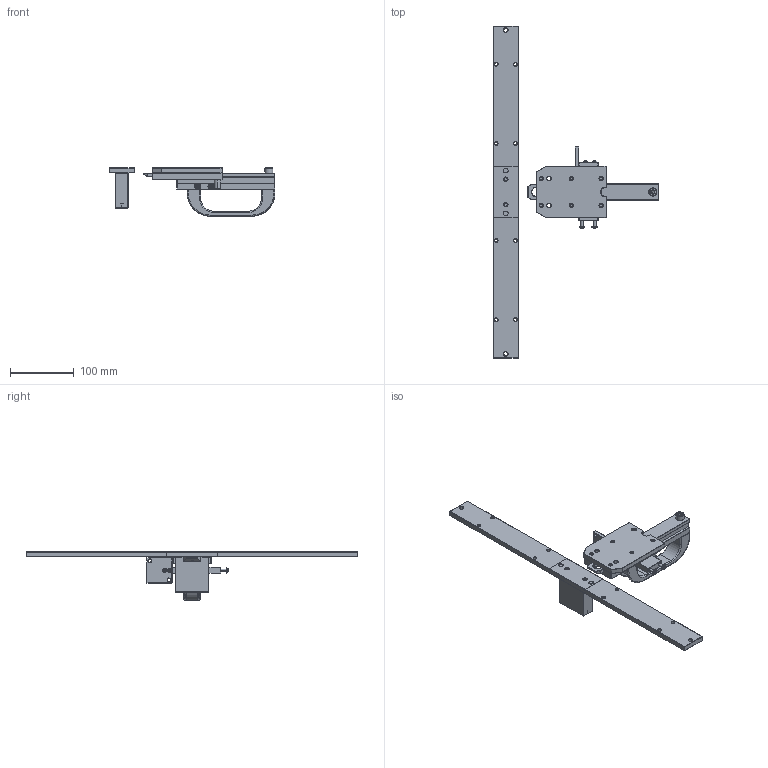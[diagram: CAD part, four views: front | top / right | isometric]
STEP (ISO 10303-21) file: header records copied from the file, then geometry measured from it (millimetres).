
FILE_DESCRIPTION((''),'2;1');
FILE_NAME('2007435_ASM','2010-06-21T',('rink'),(''),'PRO/ENGINEER BY PARAMETRIC TECHNOLOGY CORPORATION, 2009380','PRO/ENGINEER BY PARAMETRIC TECHNOLOGY CORPORATION, 2009380','');
FILE_SCHEMA(('AUTOMOTIVE_DESIGN_CC2 { 1 2 10303 214 -1 1 5 2 }'));
Length unit declared in the file: millimetre
Products named in the file (6): 2007411; 2007410; 2007416; 2007417; 2007418; 2007435_ASM
Assembly tree (6 placements, depth 2):
  2007435_ASM
    2007411
    2007410  x2
    2007416
    2007417
    2007418
Bounding box: 260 x 520 x 75.85 mm (x, y, z)
Volume: 570510.5 mm3; surface area: 166877.8 mm2
Topology: 8 solids, 9 shells, 1261 faces, 3102 edges, 1917 vertices
Faces by surface type: plane 622, cone 362, cylinder 227, torus 40, sphere 10
Entity records: 80706 total; most frequent: CARTESIAN_POINT 48212, DIRECTION 5375, ORIENTED_EDGE 5344, EDGE_CURVE 2672, PRESENTATION_STYLE_ASSIGNMENT 2135, STYLED_ITEM 2135, CURVE_STYLE 2132, AXIS2_PLACEMENT_3D 1873
